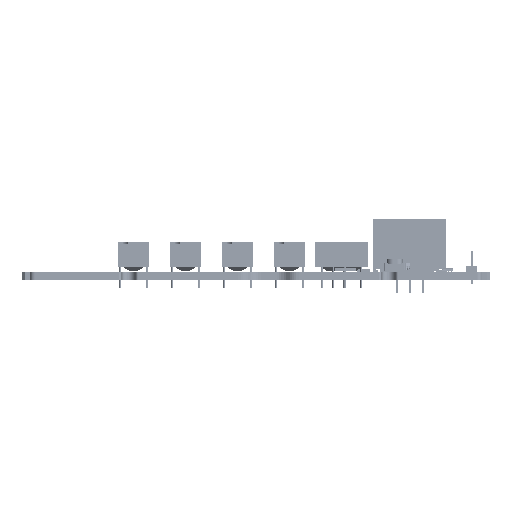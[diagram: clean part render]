
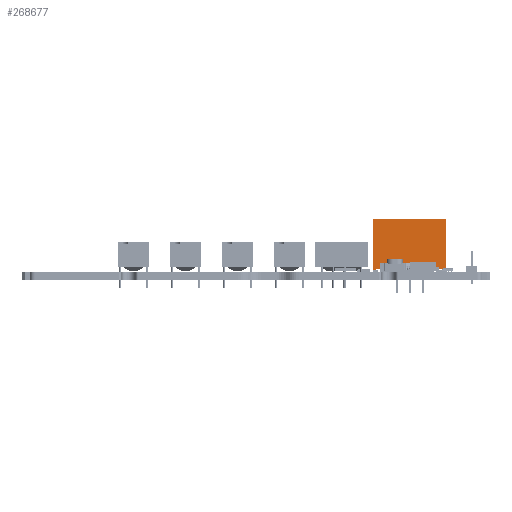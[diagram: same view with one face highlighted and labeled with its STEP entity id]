
A CAD part, front view. The second image highlights one B-rep face of the part: STEP entity #268677.
In plain terms, the highlighted planar face has unit normal (0, -1, 0).
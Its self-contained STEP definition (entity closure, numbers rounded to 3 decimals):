
#268602 = VERTEX_POINT('',#268603);
#268603 = CARTESIAN_POINT('',(80.56,58.09,
    0.));
#268620 = VERTEX_POINT('',#268621);
#268621 = CARTESIAN_POINT('',(81.06,58.09,
    0.));
#268627 = EDGE_CURVE('',#268602,#268620,#268628,.T.);
#268628 = LINE('',#268629,#268630);
#268629 = CARTESIAN_POINT('',(81.06,58.09,
    0.));
#268630 = VECTOR('',#268631,1.);
#268631 = DIRECTION('',(1.,0.,0.));
#268644 = VERTEX_POINT('',#268645);
#268645 = CARTESIAN_POINT('',(67.06,58.09,
    0.));
#268651 = EDGE_CURVE('',#268652,#268644,#268654,.T.);
#268652 = VERTEX_POINT('',#268653);
#268653 = CARTESIAN_POINT('',(67.06,58.09,
    10.1));
#268654 = LINE('',#268655,#268656);
#268655 = CARTESIAN_POINT('',(67.06,58.09,
    10.1));
#268656 = VECTOR('',#268657,1.);
#268657 = DIRECTION('',(0.,0.,-1.));
#268677 = ADVANCED_FACE('',(#268678),#268726,.F.);
#268678 = FACE_BOUND('',#268679,.T.);
#268679 = EDGE_LOOP('',(#268680,#268690,#268696,#268697,#268705,#268711,
    #268712,#268720));
#268680 = ORIENTED_EDGE('',*,*,#268681,.T.);
#268681 = EDGE_CURVE('',#268682,#268684,#268686,.T.);
#268682 = VERTEX_POINT('',#268683);
#268683 = CARTESIAN_POINT('',(67.56,58.09,
    0.5));
#268684 = VERTEX_POINT('',#268685);
#268685 = CARTESIAN_POINT('',(80.56,58.09,
    0.5));
#268686 = LINE('',#268687,#268688);
#268687 = CARTESIAN_POINT('',(80.56,58.09,
    0.5));
#268688 = VECTOR('',#268689,1.);
#268689 = DIRECTION('',(1.,0.,0.));
#268690 = ORIENTED_EDGE('',*,*,#268691,.T.);
#268691 = EDGE_CURVE('',#268684,#268602,#268692,.T.);
#268692 = LINE('',#268693,#268694);
#268693 = CARTESIAN_POINT('',(80.56,58.09,
    0.));
#268694 = VECTOR('',#268695,1.);
#268695 = DIRECTION('',(0.,0.,-1.));
#268696 = ORIENTED_EDGE('',*,*,#268627,.T.);
#268697 = ORIENTED_EDGE('',*,*,#268698,.F.);
#268698 = EDGE_CURVE('',#268699,#268620,#268701,.T.);
#268699 = VERTEX_POINT('',#268700);
#268700 = CARTESIAN_POINT('',(81.06,58.09,
    10.1));
#268701 = LINE('',#268702,#268703);
#268702 = CARTESIAN_POINT('',(81.06,58.09,
    10.1));
#268703 = VECTOR('',#268704,1.);
#268704 = DIRECTION('',(0.,0.,-1.));
#268705 = ORIENTED_EDGE('',*,*,#268706,.F.);
#268706 = EDGE_CURVE('',#268652,#268699,#268707,.T.);
#268707 = LINE('',#268708,#268709);
#268708 = CARTESIAN_POINT('',(81.06,58.09,
    10.1));
#268709 = VECTOR('',#268710,1.);
#268710 = DIRECTION('',(1.,0.,0.));
#268711 = ORIENTED_EDGE('',*,*,#268651,.T.);
#268712 = ORIENTED_EDGE('',*,*,#268713,.T.);
#268713 = EDGE_CURVE('',#268644,#268714,#268716,.T.);
#268714 = VERTEX_POINT('',#268715);
#268715 = CARTESIAN_POINT('',(67.56,58.09,
    0.));
#268716 = LINE('',#268717,#268718);
#268717 = CARTESIAN_POINT('',(81.06,58.09,
    0.));
#268718 = VECTOR('',#268719,1.);
#268719 = DIRECTION('',(1.,0.,0.));
#268720 = ORIENTED_EDGE('',*,*,#268721,.T.);
#268721 = EDGE_CURVE('',#268714,#268682,#268722,.T.);
#268722 = LINE('',#268723,#268724);
#268723 = CARTESIAN_POINT('',(67.56,58.09,
    0.));
#268724 = VECTOR('',#268725,1.);
#268725 = DIRECTION('',(0.,0.,1.));
#268726 = PLANE('',#268727);
#268727 = AXIS2_PLACEMENT_3D('',#268728,#268729,#268730);
#268728 = CARTESIAN_POINT('',(81.06,58.09,
    10.1));
#268729 = DIRECTION('',(0.,1.,0.));
#268730 = DIRECTION('',(-1.,0.,0.));
